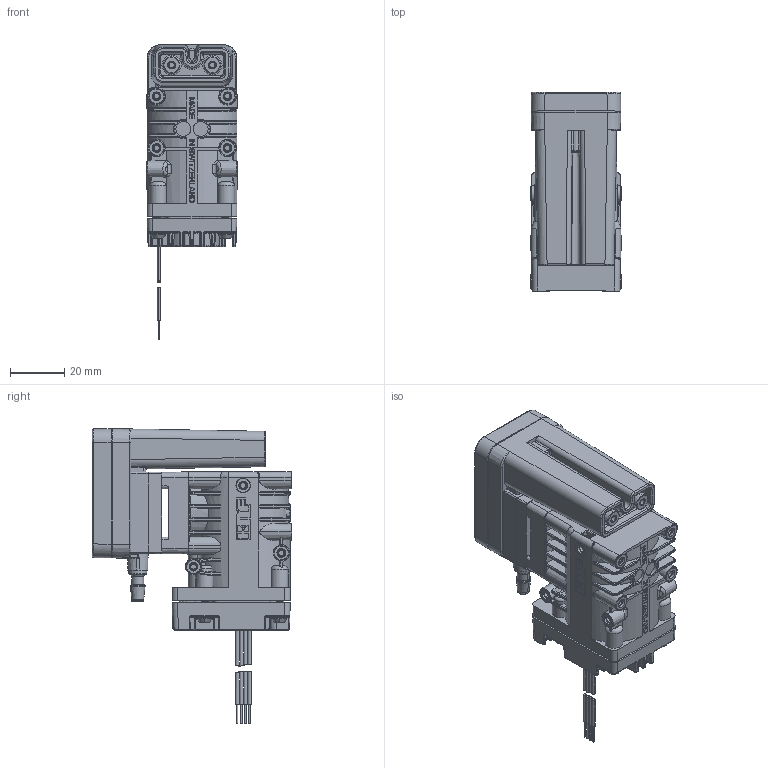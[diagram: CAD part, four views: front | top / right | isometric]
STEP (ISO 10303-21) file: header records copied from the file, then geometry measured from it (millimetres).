
FILE_DESCRIPTION((''),'2;1');
FILE_NAME('358684','2026-01-13T12:52:02',('Brian.Timoney'),('KNF Flodos AG, 6210 Sursee, Switzerland'),'CREO PARAMETRIC BY PTC INC, 2024401','CREO PARAMETRIC BY PTC INC, 2024401','');
FILE_SCHEMA(('AP242_MANAGED_MODEL_BASED_3D_ENGINEERING_MIM_LF { 1 0 10303 442 1 1 4 }'));
Products named in the file (1): 358684
Bounding box: 33.4 x 73.3 x 108.36 mm (x, y, z)
Volume: 122708.9 mm3; surface area: 30669.8 mm2
Topology: 5 solids, 5 shells, 4484 faces, 11623 edges, 7297 vertices
Faces by surface type: plane 2423, cylinder 941, bspline 458, torus 308, cone 174, extrusion 102, sphere 78
Entity records: 183379 total; most frequent: CARTESIAN_POINT 76354, ORIENTED_EDGE 23242, DIRECTION 20668, EDGE_CURVE 11621, VECTOR 7720, LINE 7618, VERTEX_POINT 7297, AXIS2_PLACEMENT_3D 6474
